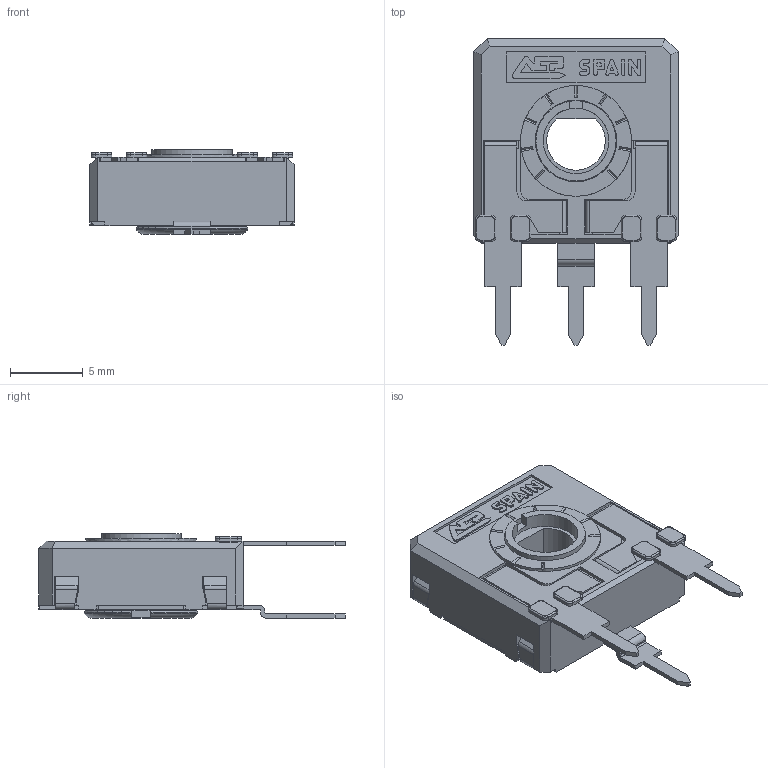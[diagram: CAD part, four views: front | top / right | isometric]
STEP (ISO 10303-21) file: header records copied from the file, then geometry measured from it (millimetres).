
FILE_DESCRIPTION(/* description */ (''),/* implementation_level */ '2;1');
FILE_NAME(/* name */ '\\SERVERACP\intercambio\Ignacio Santa Cecilia\Nueva WEB 2025\CA14 - CE14\CA14FH5 RT-RO.stp',/* time_stamp */ '2025-06-12T09:50:25+02:00',/* author */ ('CEM'),/* organization */ (''),/* preprocessor_version */ 'ST-DEVELOPER v17',/* originating_system */ 'Autodesk Inventor 2018',/* authorisation */ '');
FILE_SCHEMA (('AUTOMOTIVE_DESIGN { 1 0 10303 214 3 1 1 }'));
Length unit declared in the file: millimetre
Products named in the file (1): CARCASA CA14 PGA
Bounding box: 14 x 21 x 5.8 mm (x, y, z)
Volume: 527.2 mm3; surface area: 1448.2 mm2
Topology: 1 solids, 1 shells, 664 faces, 1875 edges, 1207 vertices
Faces by surface type: plane 493, cylinder 134, torus 23, bspline 8, cone 6
Full cylindrical faces by diameter (mm): 4.5 x1, 5.5 x1, 5.6 x1, 5.752 x1, 6.8 x1, 7.6 x1
Entity records: 21677 total; most frequent: CARTESIAN_POINT 4044, ORIENTED_EDGE 3750, DIRECTION 3497, EDGE_CURVE 1875, LINE 1477, VECTOR 1477, VERTEX_POINT 1207, AXIS2_PLACEMENT_3D 1010
